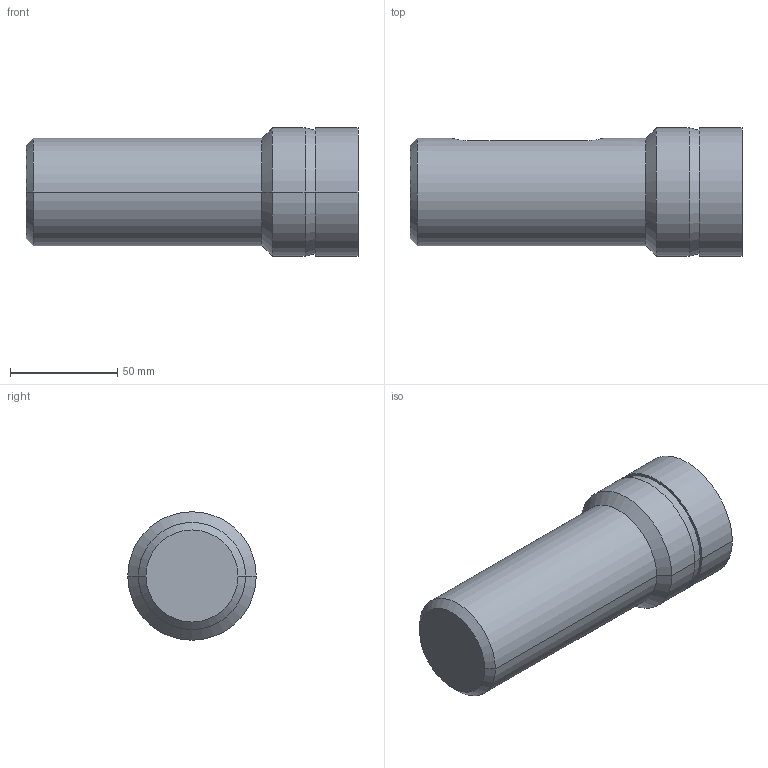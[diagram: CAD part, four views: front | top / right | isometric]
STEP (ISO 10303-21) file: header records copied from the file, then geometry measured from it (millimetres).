
FILE_DESCRIPTION (( 'STEP AP203' ), '1' );
FILE_NAME ('S1-60.STEP', '2002-08-16T10:47:53', ( '.' ), ( '.' ), 'SwSTEP 2.0', 'SolidWorks 2001340', '' );
FILE_SCHEMA (( 'CONFIG_CONTROL_DESIGN' ));
Length unit declared in the file: millimetre
Products named in the file (1): S1-60
Bounding box: 155 x 60 x 60 mm (x, y, z)
Volume: 334658.1 mm3; surface area: 31451 mm2
Topology: 1 solids, 1 shells, 20 faces, 43 edges, 26 vertices
Faces by surface type: cylinder 8, plane 6, cone 6
Entity records: 696 total; most frequent: CARTESIAN_POINT 176, DIRECTION 99, ORIENTED_EDGE 86, EDGE_CURVE 43, AXIS2_PLACEMENT_3D 39, VERTEX_POINT 26, EDGE_LOOP 21, LINE 21
